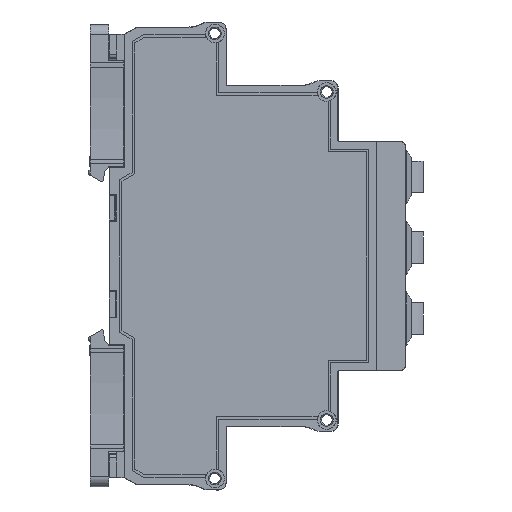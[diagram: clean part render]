
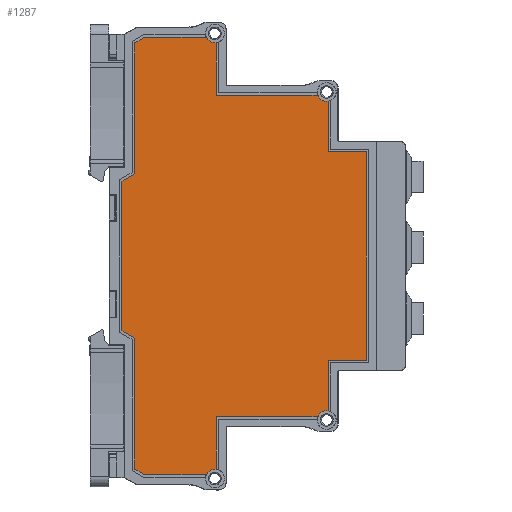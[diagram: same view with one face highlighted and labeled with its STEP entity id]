
A CAD part, front view. The second image highlights one B-rep face of the part: STEP entity #1287.
In plain terms, the highlighted planar face has unit normal (0, -1, 0) as drawn and (1, 0, 0) by its records, which use the part's own axes.
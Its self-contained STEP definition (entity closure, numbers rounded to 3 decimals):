
#1287=ADVANCED_FACE('',(#27513),#27515,.T.);
#27513=FACE_BOUND('',#27514,.T.);
#27514=EDGE_LOOP('',(#47891,#47892,#47893,#47894,#47895,#47896,#47897,#47898,#47899,
#47900,#47901,#47902,#47903,#47904,#47905,#47906,#47907,#47908,#47909,#47910,#47911,
#47912));
#27515=PLANE('',#27516);
#27516=AXIS2_PLACEMENT_3D('',#27517,#27518,#27519);
#27517=CARTESIAN_POINT('',(6.5,0.,0.));
#27518=DIRECTION('',(1.,0.,0.));
#27519=DIRECTION('',(0.,0.,-1.));
#47891=ORIENTED_EDGE('',*,*,#66175,.F.);
#47892=ORIENTED_EDGE('',*,*,#66176,.T.);
#47893=ORIENTED_EDGE('',*,*,#66093,.F.);
#47894=ORIENTED_EDGE('',*,*,#66177,.T.);
#47895=ORIENTED_EDGE('',*,*,#66178,.T.);
#47896=ORIENTED_EDGE('',*,*,#66179,.T.);
#47897=ORIENTED_EDGE('',*,*,#66180,.T.);
#47898=ORIENTED_EDGE('',*,*,#66181,.T.);
#47899=ORIENTED_EDGE('',*,*,#66077,.F.);
#47900=ORIENTED_EDGE('',*,*,#66182,.F.);
#47901=ORIENTED_EDGE('',*,*,#66183,.T.);
#47902=ORIENTED_EDGE('',*,*,#66087,.F.);
#47903=ORIENTED_EDGE('',*,*,#66184,.T.);
#47904=ORIENTED_EDGE('',*,*,#66185,.F.);
#47905=ORIENTED_EDGE('',*,*,#66186,.T.);
#47906=ORIENTED_EDGE('',*,*,#66187,.T.);
#47907=ORIENTED_EDGE('',*,*,#66188,.T.);
#47908=ORIENTED_EDGE('',*,*,#66189,.T.);
#47909=ORIENTED_EDGE('',*,*,#66190,.T.);
#47910=ORIENTED_EDGE('',*,*,#66191,.F.);
#47911=ORIENTED_EDGE('',*,*,#66192,.T.);
#47912=ORIENTED_EDGE('',*,*,#66103,.F.);
#66077=EDGE_CURVE('',#74120,#74105,#74122,.T.);
#66087=EDGE_CURVE('',#74140,#74125,#74142,.T.);
#66093=EDGE_CURVE('',#74152,#74154,#74155,.T.);
#66103=EDGE_CURVE('',#74172,#74174,#74175,.T.);
#66175=EDGE_CURVE('',#74313,#74172,#74314,.T.);
#66176=EDGE_CURVE('',#74313,#74154,#74315,.T.);
#66177=EDGE_CURVE('',#74152,#74316,#74317,.T.);
#66178=EDGE_CURVE('',#74316,#74318,#74319,.T.);
#66179=EDGE_CURVE('',#74318,#74320,#74321,.T.);
#66180=EDGE_CURVE('',#74320,#74322,#74323,.T.);
#66181=EDGE_CURVE('',#74322,#74105,#74324,.T.);
#66182=EDGE_CURVE('',#74325,#74120,#74326,.T.);
#66183=EDGE_CURVE('',#74325,#74125,#74327,.T.);
#66184=EDGE_CURVE('',#74140,#74328,#74329,.T.);
#66185=EDGE_CURVE('',#74330,#74328,#74331,.T.);
#66186=EDGE_CURVE('',#74330,#74332,#74333,.T.);
#66187=EDGE_CURVE('',#74332,#74334,#74335,.T.);
#66188=EDGE_CURVE('',#74334,#74336,#74337,.T.);
#66189=EDGE_CURVE('',#74336,#74338,#74339,.T.);
#66190=EDGE_CURVE('',#74338,#74340,#74341,.T.);
#66191=EDGE_CURVE('',#74342,#74340,#74343,.T.);
#66192=EDGE_CURVE('',#74342,#74174,#74344,.T.);
#74105=VERTEX_POINT('',#88037);
#74120=VERTEX_POINT('',#88070);
#74122=CIRCLE('',#88074,1.85);
#74125=VERTEX_POINT('',#88083);
#74140=VERTEX_POINT('',#88116);
#74142=CIRCLE('',#88120,1.85);
#74152=VERTEX_POINT('',#88144);
#74154=VERTEX_POINT('',#88148);
#74155=CIRCLE('',#88149,1.85);
#74172=VERTEX_POINT('',#88190);
#74174=VERTEX_POINT('',#88194);
#74175=CIRCLE('',#88195,1.85);
#74313=VERTEX_POINT('',#88499);
#74314=LINE('',#88500,#88501);
#74315=LINE('',#88503,#88504);
#74316=VERTEX_POINT('',#88506);
#74317=LINE('',#88507,#88508);
#74318=VERTEX_POINT('',#88510);
#74319=LINE('',#88511,#88512);
#74320=VERTEX_POINT('',#88514);
#74321=LINE('',#88515,#88516);
#74322=VERTEX_POINT('',#88518);
#74323=LINE('',#88519,#88520);
#74324=LINE('',#88522,#88523);
#74325=VERTEX_POINT('',#88525);
#74326=LINE('',#88526,#88527);
#74327=LINE('',#88529,#88530);
#74328=VERTEX_POINT('',#88532);
#74329=LINE('',#88533,#88534);
#74330=VERTEX_POINT('',#88536);
#74331=LINE('',#88537,#88538);
#74332=VERTEX_POINT('',#88540);
#74333=LINE('',#88541,#88542);
#74334=VERTEX_POINT('',#88544);
#74335=LINE('',#88545,#88546);
#74336=VERTEX_POINT('',#88548);
#74337=LINE('',#88549,#88550);
#74338=VERTEX_POINT('',#88552);
#74339=LINE('',#88553,#88554);
#74340=VERTEX_POINT('',#88556);
#74341=LINE('',#88557,#88558);
#74342=VERTEX_POINT('',#88560);
#74343=LINE('',#88561,#88562);
#74344=LINE('',#88564,#88565);
#88037=CARTESIAN_POINT('',(6.5,-30.541,38.985));
#88070=CARTESIAN_POINT('',(6.5,-31.7,37.015));
#88074=AXIS2_PLACEMENT_3D('',#88075,#88076,#88077);
#88075=CARTESIAN_POINT('',(6.5,-32.375,38.738));
#88076=DIRECTION('',(1.,0.,0.));
#88077=DIRECTION('',(0.,0.365,-0.931));
#88083=CARTESIAN_POINT('',(6.5,-42.103,16.897));
#88116=CARTESIAN_POINT('',(6.5,-43.2,14.953));
#88120=AXIS2_PLACEMENT_3D('',#88121,#88122,#88123);
#88121=CARTESIAN_POINT('',(6.5,-43.937,16.65));
#88122=DIRECTION('',(1.,0.,0.));
#88123=DIRECTION('',(0.,0.398,-0.917));
#88144=CARTESIAN_POINT('',(6.5,30.541,38.985));
#88148=CARTESIAN_POINT('',(6.5,31.7,37.015));
#88149=AXIS2_PLACEMENT_3D('',#88150,#88151,#88152);
#88150=CARTESIAN_POINT('',(6.5,32.375,38.738));
#88151=DIRECTION('',(1.,0.,0.));
#88152=DIRECTION('',(0.,-0.991,0.134));
#88190=CARTESIAN_POINT('',(6.5,42.103,16.897));
#88194=CARTESIAN_POINT('',(6.5,43.2,14.953));
#88195=AXIS2_PLACEMENT_3D('',#88196,#88197,#88198);
#88196=CARTESIAN_POINT('',(6.5,43.937,16.65));
#88197=DIRECTION('',(1.,0.,0.));
#88198=DIRECTION('',(0.,-0.991,0.134));
#88499=CARTESIAN_POINT('',(6.5,31.7,16.897));
#88500=CARTESIAN_POINT('',(6.5,31.7,16.897));
#88501=VECTOR('',#88502,1.);
#88502=DIRECTION('',(0.,1.,0.));
#88503=CARTESIAN_POINT('',(6.5,31.7,16.897));
#88504=VECTOR('',#88505,1.);
#88505=DIRECTION('',(0.,0.,1.));
#88506=CARTESIAN_POINT('',(6.5,20.6,38.985));
#88507=CARTESIAN_POINT('',(6.5,30.541,38.985));
#88508=VECTOR('',#88509,1.);
#88509=DIRECTION('',(0.,-1.,0.));
#88510=CARTESIAN_POINT('',(6.5,20.6,46.53));
#88511=CARTESIAN_POINT('',(6.5,20.6,38.985));
#88512=VECTOR('',#88513,1.);
#88513=DIRECTION('',(0.,0.,1.));
#88514=CARTESIAN_POINT('',(6.5,-20.6,46.53));
#88515=CARTESIAN_POINT('',(6.5,20.6,46.53));
#88516=VECTOR('',#88517,1.);
#88517=DIRECTION('',(0.,-1.,0.));
#88518=CARTESIAN_POINT('',(6.5,-20.6,38.985));
#88519=CARTESIAN_POINT('',(6.5,-20.6,46.53));
#88520=VECTOR('',#88521,1.);
#88521=DIRECTION('',(0.,0.,-1.));
#88522=CARTESIAN_POINT('',(6.5,-20.6,38.985));
#88523=VECTOR('',#88524,1.);
#88524=DIRECTION('',(0.,-1.,0.));
#88525=CARTESIAN_POINT('',(6.5,-31.7,16.897));
#88526=CARTESIAN_POINT('',(6.5,-31.7,16.897));
#88527=VECTOR('',#88528,1.);
#88528=DIRECTION('',(0.,0.,1.));
#88529=CARTESIAN_POINT('',(6.5,-31.7,16.897));
#88530=VECTOR('',#88531,1.);
#88531=DIRECTION('',(0.,-1.,0.));
#88532=CARTESIAN_POINT('',(6.5,-43.2,2.761));
#88533=CARTESIAN_POINT('',(6.5,-43.2,14.953));
#88534=VECTOR('',#88535,1.);
#88535=DIRECTION('',(0.,0.,-1.));
#88536=CARTESIAN_POINT('',(6.5,-42.068,0.8));
#88537=CARTESIAN_POINT('',(6.5,-42.068,0.8));
#88538=VECTOR('',#88539,1.);
#88539=DIRECTION('',(0.,-0.5,0.866));
#88540=CARTESIAN_POINT('',(6.5,-16.211,0.8));
#88541=CARTESIAN_POINT('',(6.5,-42.068,0.8));
#88542=VECTOR('',#88543,1.);
#88543=DIRECTION('',(0.,1.,0.));
#88544=CARTESIAN_POINT('',(6.5,-14.768,-1.7));
#88545=CARTESIAN_POINT('',(6.5,-16.211,0.8));
#88546=VECTOR('',#88547,1.);
#88547=DIRECTION('',(0.,0.5,-0.866));
#88548=CARTESIAN_POINT('',(6.5,14.768,-1.7));
#88549=CARTESIAN_POINT('',(6.5,-14.768,-1.7));
#88550=VECTOR('',#88551,1.);
#88551=DIRECTION('',(0.,1.,0.));
#88552=CARTESIAN_POINT('',(6.5,16.211,0.8));
#88553=CARTESIAN_POINT('',(6.5,14.768,-1.7));
#88554=VECTOR('',#88555,1.);
#88555=DIRECTION('',(0.,0.5,0.866));
#88556=CARTESIAN_POINT('',(6.5,42.068,0.8));
#88557=CARTESIAN_POINT('',(6.5,16.211,0.8));
#88558=VECTOR('',#88559,1.);
#88559=DIRECTION('',(0.,1.,0.));
#88560=CARTESIAN_POINT('',(6.5,43.2,2.761));
#88561=CARTESIAN_POINT('',(6.5,43.2,2.761));
#88562=VECTOR('',#88563,1.);
#88563=DIRECTION('',(0.,-0.5,-0.866));
#88564=CARTESIAN_POINT('',(6.5,43.2,2.761));
#88565=VECTOR('',#88566,1.);
#88566=DIRECTION('',(0.,0.,1.));
